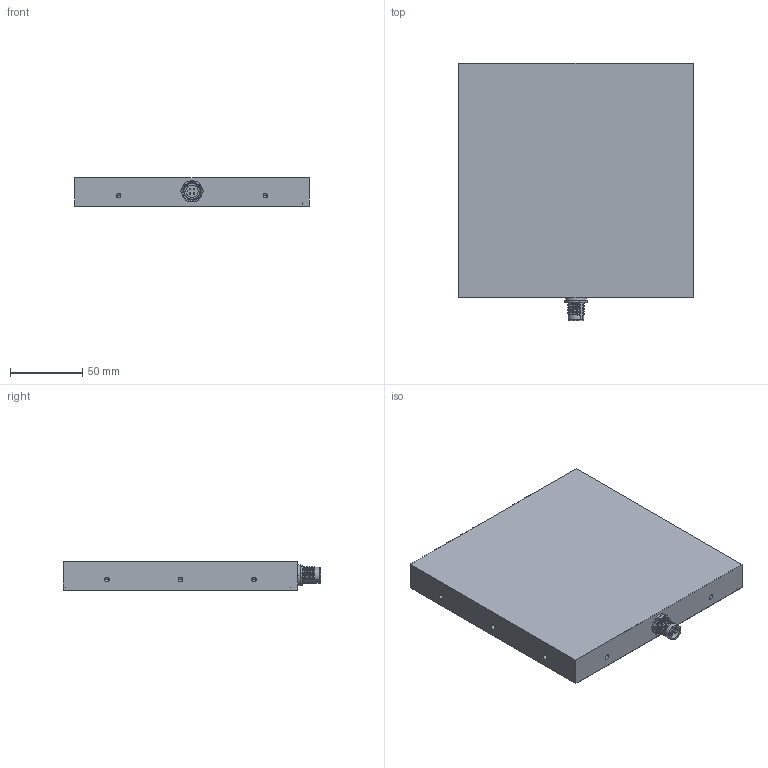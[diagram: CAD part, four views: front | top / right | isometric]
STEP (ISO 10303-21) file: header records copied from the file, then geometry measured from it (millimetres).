
FILE_DESCRIPTION (( 'STEP AP214' ), '1' );
FILE_NAME ('SBACK II 150x150.STEP', '2013-03-07T10:27:48', ( ' ' ), ( '' ), 'SwSTEP 2.0', 'SolidWorks 2009', '' );
FILE_SCHEMA (( 'AUTOMOTIVE_DESIGN' ));
Length unit declared in the file: millimetre
Products named in the file (1): SBACK II 150x150
Bounding box: 163 x 179 x 20 mm (x, y, z)
Volume: 367291.1 mm3; surface area: 127789.5 mm2
Topology: 2 solids, 10 shells, 348 faces, 902 edges, 543 vertices
Faces by surface type: cylinder 122, plane 106, cone 66, bspline 46, sphere 8
Entity records: 31354 total; most frequent: CARTESIAN_POINT 19925, ORIENTED_EDGE 1680, DIRECTION 1491, EDGE_CURVE 840, VERTEX_POINT 535, AXIS2_PLACEMENT_3D 533, LINE 425, VECTOR 425
